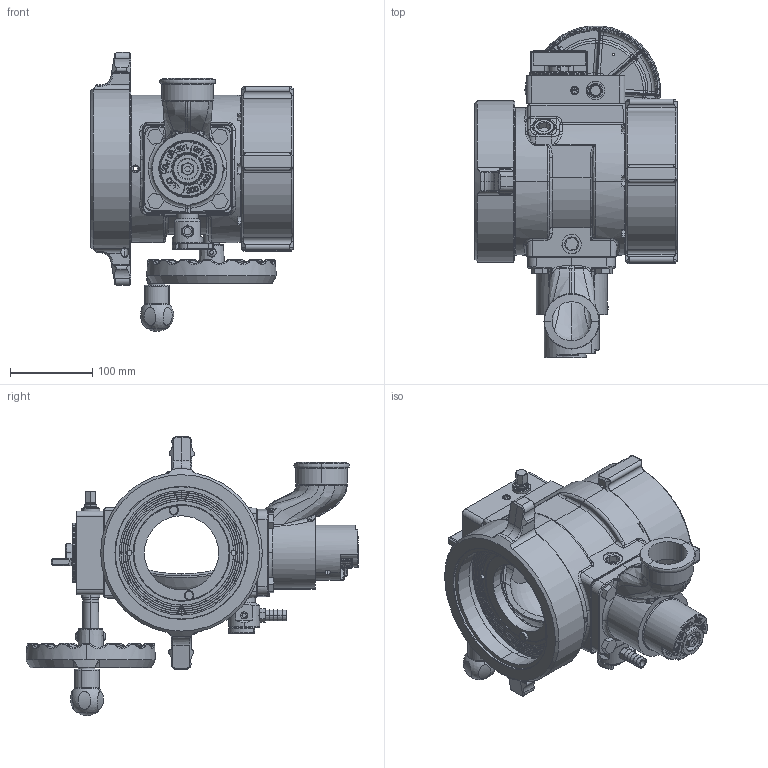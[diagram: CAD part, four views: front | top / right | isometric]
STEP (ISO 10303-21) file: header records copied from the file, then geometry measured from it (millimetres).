
FILE_DESCRIPTION (( 'STEP AP203' ), '1' );
FILE_NAME ('ABS7NT-NT.step', '2014-05-13T18:39:53', ( 'user' ), ( '' ), 'SwSTEP 2.0', 'SolidWorks 2012', '' );
FILE_SCHEMA (( 'CONFIG_CONTROL_DESIGN' ));
Length unit declared in the file: inch
Products named in the file (1): ABS7NT-NT
Bounding box: 246.46 x 404.19 x 339.81 mm (x, y, z)
Surface area: 593990.4 mm2 (no closed solid volume)
Topology: 0 solids, 135 shells, 2105 faces, 9508 edges, 7358 vertices
Faces by surface type: plane 708, cylinder 464, bspline 460, cone 278, torus 166, sphere 29
Entity records: 158179 total; most frequent: CARTESIAN_POINT 88659, ORIENTED_EDGE 13803, DIRECTION 12214, EDGE_CURVE 9479, VERTEX_POINT 7356, VECTOR 4808, LINE 4808, AXIS2_PLACEMENT_3D 3703
